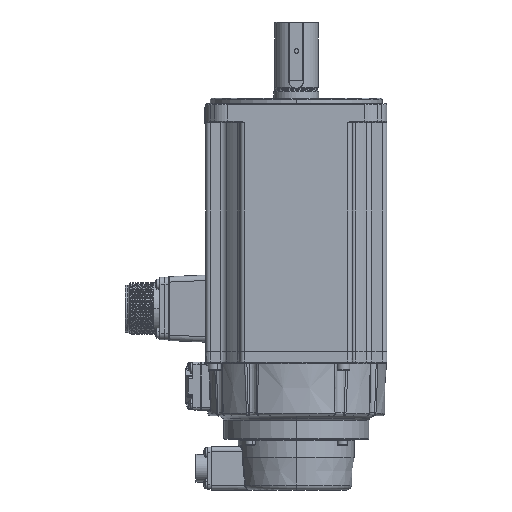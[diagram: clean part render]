
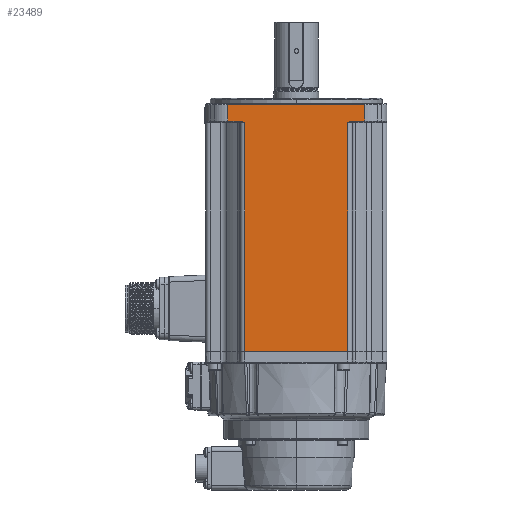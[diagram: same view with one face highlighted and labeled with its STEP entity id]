
A CAD part, left-side view. The second image highlights one B-rep face of the part: STEP entity #23489.
In plain terms, the highlighted planar face has unit normal (-1, 0, 0).
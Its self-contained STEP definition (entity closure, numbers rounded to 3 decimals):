
#1978 = CARTESIAN_POINT ( 'NONE',  ( -50., -42., -12.6 ) ) ;
#6580 = CARTESIAN_POINT ( 'NONE',  ( -50., -28.5, -13.6 ) ) ;
#6861 = DIRECTION ( 'NONE',  ( 0., 0., 1. ) ) ;
#8726 = DIRECTION ( 'NONE',  ( -1., 0., 0. ) ) ;
#9888 = CARTESIAN_POINT ( 'NONE',  ( -50., 28.839, -13.36 ) ) ;
#10086 = VERTEX_POINT ( 'NONE', #97371 ) ;
#10298 = VERTEX_POINT ( 'NONE', #72469 ) ;
#10516 = LINE ( 'NONE', #34598, #104521 ) ;
#11046 = CARTESIAN_POINT ( 'NONE',  ( -50., 29.912, -12.743 ) ) ;
#12423 = CARTESIAN_POINT ( 'NONE',  ( -50., 28.5, -13.6 ) ) ;
#12646 = EDGE_LOOP ( 'NONE', ( #18903, #33200, #24074, #97007, #38557, #21702, #16743, #25792, #106414, #50224 ) ) ;
#15116 = LINE ( 'NONE', #86152, #84183 ) ;
#15765 = VERTEX_POINT ( 'NONE', #6580 ) ;
#16743 = ORIENTED_EDGE ( 'NONE', *, *, #33558, .T. ) ;
#18240 = LINE ( 'NONE', #81702, #34778 ) ;
#18365 = CARTESIAN_POINT ( 'NONE',  ( -50., -28.5, -13.6 ) ) ;
#18903 = ORIENTED_EDGE ( 'NONE', *, *, #85744, .F. ) ;
#20247 = EDGE_CURVE ( 'NONE', #75812, #10086, #18240, .T. ) ;
#21702 = ORIENTED_EDGE ( 'NONE', *, *, #101390, .T. ) ;
#21769 = CARTESIAN_POINT ( 'NONE',  ( -50., 28.5, -139.5 ) ) ;
#23489 = ADVANCED_FACE ( 'NONE', ( #109848 ), #88538, .T. ) ;
#24074 = ORIENTED_EDGE ( 'NONE', *, *, #114654, .T. ) ;
#25792 = ORIENTED_EDGE ( 'NONE', *, *, #46413, .T. ) ;
#25833 = LINE ( 'NONE', #61333, #51562 ) ;
#26164 = CARTESIAN_POINT ( 'NONE',  ( -50., 37.858, -12.6 ) ) ;
#29919 = LINE ( 'NONE', #1978, #44629 ) ;
#32977 = CARTESIAN_POINT ( 'NONE',  ( -50., -37.858, -3.5 ) ) ;
#33166 = DIRECTION ( 'NONE',  ( 0., 1., 0. ) ) ;
#33200 = ORIENTED_EDGE ( 'NONE', *, *, #20247, .T. ) ;
#33558 = EDGE_CURVE ( 'NONE', #92129, #71481, #15116, .T. ) ;
#33616 = CARTESIAN_POINT ( 'NONE',  ( -50., 37.858, -3.5 ) ) ;
#34598 = CARTESIAN_POINT ( 'NONE',  ( -50., 28.5, -168.7 ) ) ;
#34778 = VECTOR ( 'NONE', #46763, 1000. ) ;
#36877 = LINE ( 'NONE', #100856, #58900 ) ;
#37817 = CARTESIAN_POINT ( 'NONE',  ( -50., 30.736, -12.6 ) ) ;
#38557 = ORIENTED_EDGE ( 'NONE', *, *, #113908, .T. ) ;
#39450 = CARTESIAN_POINT ( 'NONE',  ( -50., 30.736, -12.6 ) ) ;
#40236 = B_SPLINE_CURVE_WITH_KNOTS ( 'NONE', 3,
 ( #37817, #45976, #11046, #73305, #9888, #81490 ),
 .UNSPECIFIED., .F., .F.,
 ( 4, 2, 4 ),
 ( 0., 0.001, 0.002 ),
 .UNSPECIFIED. ) ;
#40951 = VERTEX_POINT ( 'NONE', #47650 ) ;
#44596 = CARTESIAN_POINT ( 'NONE',  ( -50., -29.178, -13.12 ) ) ;
#44629 = VECTOR ( 'NONE', #65397, 1000. ) ;
#45976 = CARTESIAN_POINT ( 'NONE',  ( -50., 30.315, -12.6 ) ) ;
#46413 = EDGE_CURVE ( 'NONE', #71481, #114456, #36877, .T. ) ;
#46763 = DIRECTION ( 'NONE',  ( 0., -1., 0. ) ) ;
#47456 = VERTEX_POINT ( 'NONE', #39450 ) ;
#47650 = CARTESIAN_POINT ( 'NONE',  ( -50., -37.858, -12.6 ) ) ;
#50224 = ORIENTED_EDGE ( 'NONE', *, *, #75074, .T. ) ;
#51562 = VECTOR ( 'NONE', #106251, 1000. ) ;
#54089 = DIRECTION ( 'NONE',  ( 0., -1., 0. ) ) ;
#55580 = CARTESIAN_POINT ( 'NONE',  ( -50., -29.912, -12.743 ) ) ;
#58900 = VECTOR ( 'NONE', #63027, 1000. ) ;
#61333 = CARTESIAN_POINT ( 'NONE',  ( -50., -37.858, -310.121 ) ) ;
#63027 = DIRECTION ( 'NONE',  ( 0., 0., -1. ) ) ;
#64668 = VECTOR ( 'NONE', #93631, 1000. ) ;
#65397 = DIRECTION ( 'NONE',  ( 0., -1., 0. ) ) ;
#71481 = VERTEX_POINT ( 'NONE', #33616 ) ;
#72469 = CARTESIAN_POINT ( 'NONE',  ( -50., -30.736, -12.6 ) ) ;
#72783 = B_SPLINE_CURVE_WITH_KNOTS ( 'NONE', 3,
 ( #18365, #106921, #44596, #55580, #107483, #80671 ),
 .UNSPECIFIED., .F., .F.,
 ( 4, 2, 4 ),
 ( 0., 0.001, 0.002 ),
 .UNSPECIFIED. ) ;
#73305 = CARTESIAN_POINT ( 'NONE',  ( -50., 29.178, -13.12 ) ) ;
#75074 = EDGE_CURVE ( 'NONE', #47456, #94965, #40236, .T. ) ;
#75812 = VERTEX_POINT ( 'NONE', #21769 ) ;
#78515 = LINE ( 'NONE', #105894, #98732 ) ;
#80671 = CARTESIAN_POINT ( 'NONE',  ( -50., -30.736, -12.6 ) ) ;
#81081 = EDGE_CURVE ( 'NONE', #114456, #47456, #87216, .T. ) ;
#81490 = CARTESIAN_POINT ( 'NONE',  ( -50., 28.5, -13.6 ) ) ;
#81702 = CARTESIAN_POINT ( 'NONE',  ( -50., -42., -139.5 ) ) ;
#84183 = VECTOR ( 'NONE', #33166, 1000. ) ;
#85744 = EDGE_CURVE ( 'NONE', #75812, #94965, #10516, .T. ) ;
#86152 = CARTESIAN_POINT ( 'NONE',  ( -50., 37.858, -3.5 ) ) ;
#87216 = LINE ( 'NONE', #102931, #64668 ) ;
#87967 = CARTESIAN_POINT ( 'NONE',  ( -50., -42., -310.121 ) ) ;
#88538 = PLANE ( 'NONE',  #105111 ) ;
#92129 = VERTEX_POINT ( 'NONE', #32977 ) ;
#93631 = DIRECTION ( 'NONE',  ( 0., -1., 0. ) ) ;
#94965 = VERTEX_POINT ( 'NONE', #12423 ) ;
#97007 = ORIENTED_EDGE ( 'NONE', *, *, #99204, .T. ) ;
#97371 = CARTESIAN_POINT ( 'NONE',  ( -50., -28.5, -139.5 ) ) ;
#98732 = VECTOR ( 'NONE', #6861, 1000. ) ;
#99204 = EDGE_CURVE ( 'NONE', #15765, #10298, #72783, .T. ) ;
#100856 = CARTESIAN_POINT ( 'NONE',  ( -50., 37.858, -310.121 ) ) ;
#101390 = EDGE_CURVE ( 'NONE', #40951, #92129, #25833, .T. ) ;
#102931 = CARTESIAN_POINT ( 'NONE',  ( -50., -42., -12.6 ) ) ;
#104521 = VECTOR ( 'NONE', #106228, 1000. ) ;
#105111 = AXIS2_PLACEMENT_3D ( 'NONE', #87967, #8726, #54089 ) ;
#105894 = CARTESIAN_POINT ( 'NONE',  ( -50., -28.5, -168.7 ) ) ;
#106228 = DIRECTION ( 'NONE',  ( 0., 0., 1. ) ) ;
#106251 = DIRECTION ( 'NONE',  ( 0., 0., 1. ) ) ;
#106414 = ORIENTED_EDGE ( 'NONE', *, *, #81081, .T. ) ;
#106921 = CARTESIAN_POINT ( 'NONE',  ( -50., -28.839, -13.36 ) ) ;
#107483 = CARTESIAN_POINT ( 'NONE',  ( -50., -30.315, -12.6 ) ) ;
#109848 = FACE_OUTER_BOUND ( 'NONE', #12646, .T. ) ;
#113908 = EDGE_CURVE ( 'NONE', #10298, #40951, #29919, .T. ) ;
#114456 = VERTEX_POINT ( 'NONE', #26164 ) ;
#114654 = EDGE_CURVE ( 'NONE', #10086, #15765, #78515, .T. ) ;
